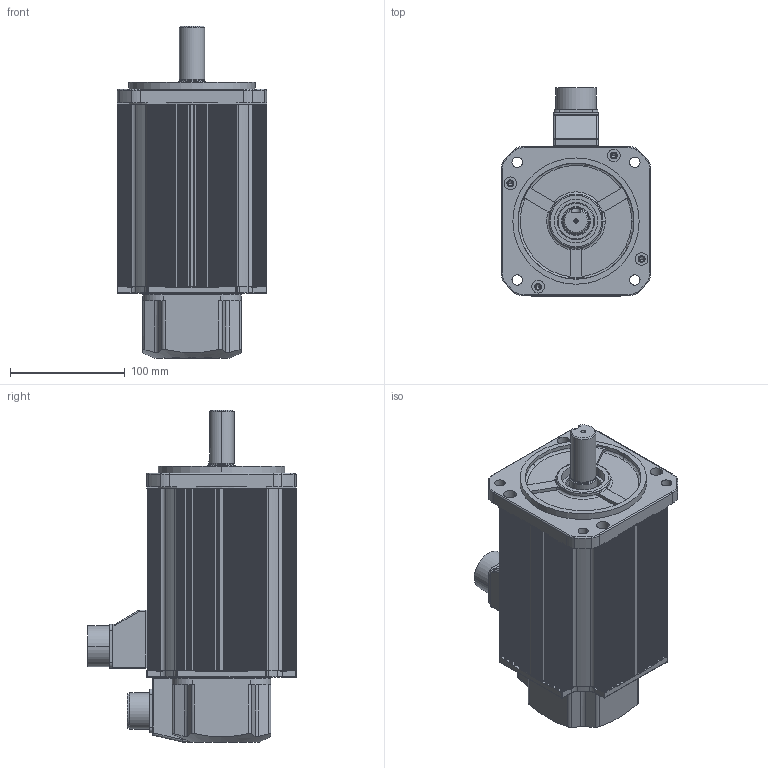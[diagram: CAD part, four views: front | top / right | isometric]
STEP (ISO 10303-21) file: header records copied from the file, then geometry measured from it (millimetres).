
FILE_DESCRIPTION (( 'STEP AP214' ), '1' );
FILE_NAME ('KAND-20B¡à1B2.STEP', '2026-09-12T01:46:25', ( '' ), ( '' ), 'SwSTEP 2.0', 'SolidWorks 2023', '' );
FILE_SCHEMA (( 'AUTOMOTIVE_DESIGN' ));
Length unit declared in the file: millimetre
Products named in the file (11): □130-159mm; 1005052200 ENCODER COVER; MS3102A 20-29P; □130 FLANGE; 10050523 GASKET_돌출형; 10050579 CONNECTOR BOX_MS20; KAND-20B□1B2; □130 BRACKET_BR; Ø22-KEY8X41; 10050511 RUBBER SEAL_MS20; MS3102A 20_표준
Assembly tree (10 placements, depth 2):
  KAND-20B□1B2
    □130-159mm
    □130 FLANGE
    □130 BRACKET_BR
    1005052200 ENCODER COVER
    10050523 GASKET_돌출형
    10050579 CONNECTOR BOX_MS20
    10050511 RUBBER SEAL_MS20
    MS3102A 20-29P
    MS3102A 20_표준
    Ø22-KEY8X41
Bounding box: 130 x 181.75 x 289.2 mm (x, y, z)
Volume: 732247.9 mm3; surface area: 398808.1 mm2
Topology: 10 solids, 10 shells, 2467 faces, 6843 edges, 4423 vertices
Faces by surface type: plane 1163, cylinder 970, torus 185, bspline 83, cone 56, sphere 10
Entity records: 82901 total; most frequent: CARTESIAN_POINT 18568, ORIENTED_EDGE 13558, DIRECTION 13550, EDGE_CURVE 6779, AXIS2_PLACEMENT_3D 4761, VERTEX_POINT 4423, VECTOR 4028, LINE 4028
